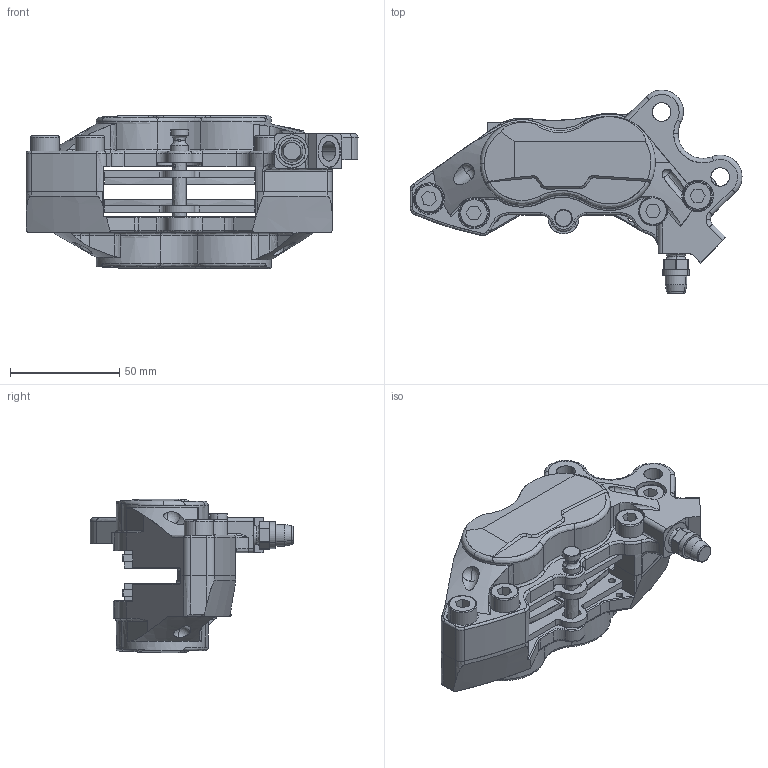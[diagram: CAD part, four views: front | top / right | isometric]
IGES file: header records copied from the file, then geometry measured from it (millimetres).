
Start section: SolidWorks IGES file using analytic representation for surfaces
Bounding box: 151.94 x 93.19 x 70.3 mm (x, y, z)
Surface area: 79799.9 mm2 (no closed solid volume)
Topology: 0 solids, 0 shells, 662 faces, 9101 edges, 9087 vertices
Faces by surface type: revolution 357, bspline 305
